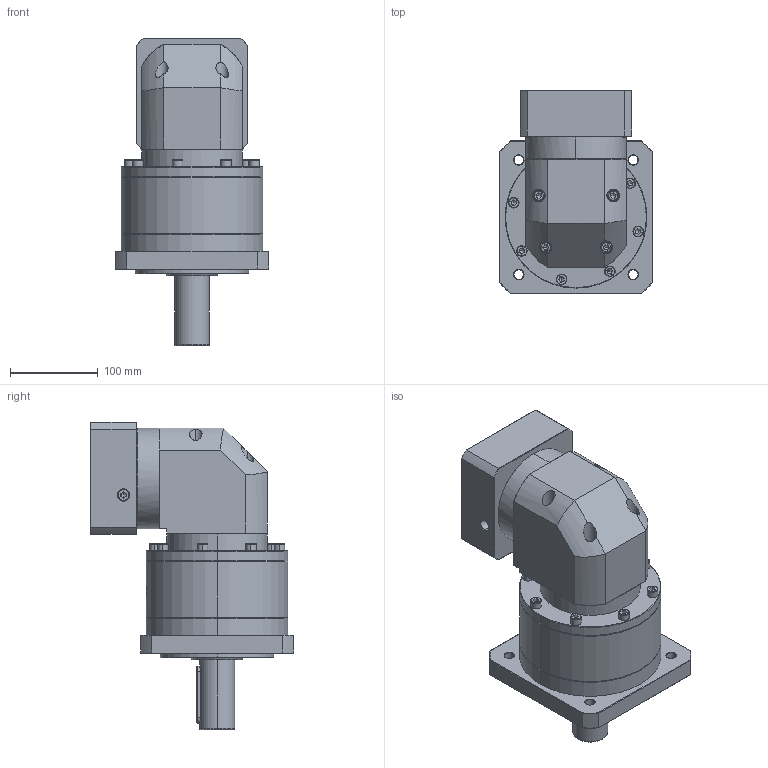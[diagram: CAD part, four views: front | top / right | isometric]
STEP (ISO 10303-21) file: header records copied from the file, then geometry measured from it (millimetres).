
FILE_DESCRIPTION (( 'STEP AP214' ), '1' );
FILE_NAME ('ZFR160A-D40-L2-P2-28-110-145-M8.step', '2023-09-03T09:41:11', ( '' ), ( '' ), 'SwSTEP 2.0', 'SolidWorks 2016', '' );
FILE_SCHEMA (( 'AUTOMOTIVE_DESIGN' ));
Length unit declared in the file: millimetre
Products named in the file (1): ZFR160A-D40-L2-P2-28-110-145-M8
Bounding box: 175 x 232.4 x 351.2 mm (x, y, z)
Volume: 5214060.1 mm3; surface area: 358419.4 mm2
Topology: 6 solids, 6 shells, 2474 faces, 6482 edges, 4132 vertices
Faces by surface type: plane 1147, cylinder 499, bspline 411, cone 371, torus 46
Entity records: 133142 total; most frequent: CARTESIAN_POINT 50387, ORIENTED_EDGE 12856, DIRECTION 9776, EDGE_CURVE 6428, VERTEX_POINT 4132, LINE 3446, VECTOR 3446, AXIS2_PLACEMENT_3D 3165
